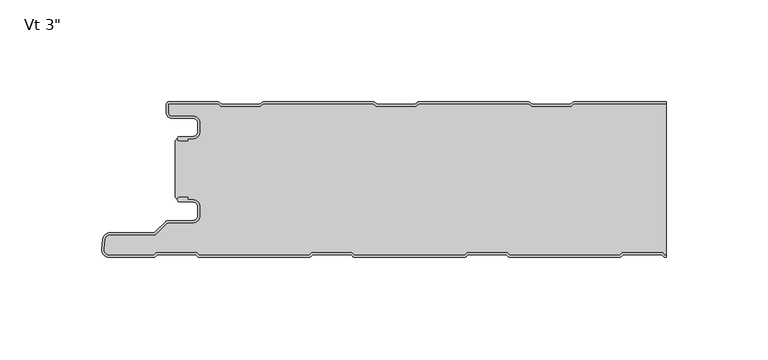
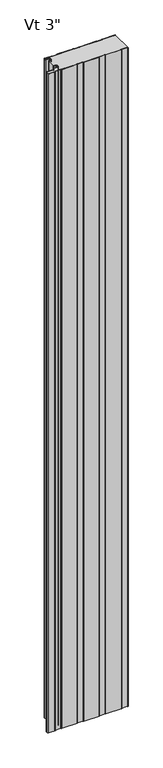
"""IFC4 building model written with IfcOpenShell, lengths in millimetres: plate geometry."""

from ifc_helpers import new_model, si_unit, point, frame, frame_2d, origin, origin_with_axes, place, context, project, spatial, polyline, circle_curve, trimmed, segment, composite_curve, outline, extrude, source, transform, mapped, element, save
from ifc_brep_helpers import plane_surface, cylinder_surface, revolved_surface, advanced_brep


def plate_9828c6b8(model_context):
    return source(origin(), model_context, "Body", "SolidModel", [
        advanced_brep(
        [(-118.368691, -17.0015034, 2400.0), (-119.3686883, -18.0015065, 2400.0), (-118.368691, -19.0014978, 2400.0), (-114.3684874, -19.0014979, 2400.0), (-114.3684874, -18.0015034, 2400.0), (-111.6762776, -18.0015034, 2400.0), (-108.3762819, -14.7015077, 2400.0), (-108.3762819, -10.3015164, 2400.0), (-111.6762774, -7.001521, 2400.0), (-122.0962563, -7.001521, 2400.0), (-123.8662505, -5.2315268, 2400.0), (-123.8662505, -0.9999791, 2400.0), (-99.3659738, -0.9999791, 2400.0), (-97.9803312, -2.2002182, 2400.0), (-78.6051649, -2.2002182, 2400.0), (-77.219532, -0.9999874, 2400.0), (-23.1661166, -0.9999874, 2400.0), (-21.7804836, -2.2002182, 2400.0), (-2.4053173, -2.2002182, 2400.0), (-1.0196844, -0.9999874, 2400.0), (53.033731, -0.9999874, 2400.0), (54.419364, -2.2002182, 2400.0), (73.7945303, -2.2002182, 2400.0), (75.1801632, -0.9999874, 2400.0), (120.3999998, -0.9999874, 2400.0), (120.3999998, 1.26e-05, 2400.0), (75.3293144, 1.26e-05, 2400.0), (74.4126975, -0.3417759, 2400.0), (73.4216499, -1.2002182, 2400.0), (54.7922444, -1.2002182, 2400.0), (53.8011968, -0.3417759, 2400.0), (52.8845799, 1.26e-05, 2400.0), (-0.8705332, 1.26e-05, 2400.0), (-1.7871501, -0.3417759, 2400.0), (-2.7781977, -1.2002182, 2400.0), (-21.4076032, -1.2002182, 2400.0), (-22.3986508, -0.3417759, 2400.0), (-23.3152677, 1.26e-05, 2400.0), (-77.0703808, 1.26e-05, 2400.0), (-77.9869977, -0.3417759, 2400.0), (-78.9780453, -1.2002182, 2400.0), (-97.6074508, -1.2002182, 2400.0), (-98.5984984, -0.3417759, 2400.0), (-99.5152067, 1.26e-05, 2400.0), (-123.4662543, 2.09e-05, 2400.0), (-124.8662505, -1.3999752, 2400.0), (-124.8662505, -5.2315268, 2400.0), (-122.0962563, -8.001521, 2400.0), (-111.6762774, -8.001521, 2400.0), (-109.3762819, -10.3015164, 2400.0), (-109.3762819, -14.7015077, 2400.0), (-111.6762776, -17.0015034, 2400.0), (-118.368691, -17.0015034, 0.0), (-111.6762776, -17.0015034, 0.0), (-109.3762819, -14.7015077, 0.0), (-109.3762819, -10.3015164, 0.0), (-111.6762774, -8.001521, 0.0), (-122.0962563, -8.001521, 0.0), (-124.8662505, -5.2315268, 0.0), (-124.8662505, -1.3999752, 0.0), (-123.4662543, 2.09e-05, 0.0), (-99.5151153, 2.09e-05, 0.0), (-98.5984984, -0.3417759, 0.0), (-97.6074508, -1.2002182, 0.0), (-78.9780453, -1.2002182, 0.0), (-77.9869977, -0.3417759, 0.0), (-77.0703808, 1.26e-05, 0.0), (-23.3152677, 1.26e-05, 0.0), (-22.3986508, -0.3417759, 0.0), (-21.4076032, -1.2002182, 0.0), (-2.7781977, -1.2002182, 0.0), (-1.7871501, -0.3417759, 0.0), (-0.8705332, 1.26e-05, 0.0), (52.8845799, 1.26e-05, 0.0), (53.8011968, -0.3417759, 0.0), (54.7922444, -1.2002182, 0.0), (73.4216499, -1.2002182, 0.0), (74.4126975, -0.3417759, 0.0), (75.3293144, 1.26e-05, 0.0), (120.3999998, 1.26e-05, 0.0), (120.3999998, -0.9999874, 0.0), (75.1801632, -0.9999874, 0.0), (73.7945303, -2.2002182, 0.0), (54.419364, -2.2002182, 0.0), (53.033731, -0.9999874, 0.0), (-1.0196844, -0.9999874, 0.0), (-2.4053173, -2.2002182, 0.0), (-21.7804836, -2.2002182, 0.0), (-23.1661166, -0.9999874, 0.0), (-77.219532, -0.9999874, 0.0), (-78.6051649, -2.2002182, 0.0), (-97.9803312, -2.2002182, 0.0), (-99.3659738, -0.9999791, 0.0), (-123.8662505, -0.9999791, 0.0), (-123.8662505, -5.2315268, 0.0), (-122.0962563, -7.001521, 0.0), (-111.6762774, -7.001521, 0.0), (-108.3762819, -10.3015164, 0.0), (-108.3762819, -14.7015077, 0.0), (-111.6762776, -18.0015034, 0.0), (-114.3684874, -18.0015034, 0.0), (-114.3684874, -19.0014979, 0.0), (-118.368691, -19.0014979, 0.0), (-119.3686882, -18.0015065, 0.0)],
        [
            (0, 1, circle_curve(frame((-118.368691, -18.0015006, 2400.0), z_axis=(0.0, 0.0, 1.0), x_axis=(1.0, 0.0, 0.0)), 0.9999973)),
            (1, 2, circle_curve(frame((-118.368691, -18.0015006, 2400.0), z_axis=(0.0, 0.0, 1.0), x_axis=(1.0, 0.0, 0.0)), 0.9999972)),
            (2, 3),
            (3, 4),
            (4, 5),
            (5, 6, circle_curve(frame((-111.6762776, -14.7015077, 2400.0), z_axis=(0.0, 0.0, 1.0), x_axis=(1.0, 0.0, 0.0)), 3.2999957)),
            (6, 7),
            (7, 8, circle_curve(frame((-111.6762774, -10.3015164, 2400.0), z_axis=(0.0, 0.0, 1.0), x_axis=(1.0, 0.0, 0.0)), 3.2999955)),
            (8, 9),
            (9, 10, circle_curve(frame((-122.0962563, -5.2315268, 2400.0), z_axis=(0.0, 0.0, -1.0), x_axis=(1.0, 0.0, 0.0)), 1.7699942)),
            (10, 11),
            (11, 12),
            (12, 13),
            (13, 14),
            (14, 15),
            (15, 16),
            (16, 17),
            (17, 18),
            (18, 19),
            (19, 20),
            (20, 21),
            (21, 22),
            (22, 23),
            (23, 24),
            (24, 25),
            (25, 26),
            (26, 27, circle_curve(frame((75.3293144, -1.3999846, 2400.0), z_axis=(0.0, 0.0, 1.0), x_axis=(1.0, 0.0, 0.0)), 1.3999972)),
            (27, 28),
            (28, 29),
            (29, 30),
            (30, 31, circle_curve(frame((52.8845799, -1.3999846, 2400.0), z_axis=(0.0, 0.0, 1.0), x_axis=(1.0, 0.0, 0.0)), 1.3999972)),
            (31, 32),
            (32, 33, circle_curve(frame((-0.8705332, -1.3999846, 2400.0), z_axis=(0.0, 0.0, 1.0), x_axis=(1.0, 0.0, 0.0)), 1.3999972)),
            (33, 34),
            (34, 35),
            (35, 36),
            (36, 37, circle_curve(frame((-23.3152677, -1.3999846, 2400.0), z_axis=(0.0, 0.0, 1.0), x_axis=(1.0, 0.0, 0.0)), 1.3999972)),
            (37, 38),
            (38, 39, circle_curve(frame((-77.0703808, -1.3999846, 2400.0), z_axis=(0.0, 0.0, 1.0), x_axis=(1.0, 0.0, 0.0)), 1.3999972)),
            (39, 40),
            (40, 41),
            (41, 42),
            (42, 43, circle_curve(frame((-99.5151153, -1.3999846, 2400.0), z_axis=(0.0, 0.0, 1.0), x_axis=(1.0, 0.0, 0.0)), 1.3999972)),
            (43, 44),
            (44, 45, circle_curve(frame((-123.4662543, -1.3999752, 2400.0), z_axis=(0.0, 0.0, 1.0), x_axis=(1.0, 0.0, 0.0)), 1.3999962)),
            (45, 46),
            (46, 47, circle_curve(frame((-122.0962563, -5.2315268, 2400.0), z_axis=(0.0, 0.0, 1.0), x_axis=(1.0, 0.0, 0.0)), 2.7699942)),
            (47, 48),
            (48, 49, circle_curve(frame((-111.6762774, -10.3015164, 2400.0), z_axis=(0.0, 0.0, -1.0), x_axis=(1.0, 0.0, 0.0)), 2.2999955)),
            (49, 50),
            (50, 51, circle_curve(frame((-111.6762776, -14.7015077, 2400.0), z_axis=(0.0, 0.0, -1.0), x_axis=(1.0, 0.0, 0.0)), 2.2999957)),
            (51, 0),
            (52, 53),
            (53, 54, circle_curve(frame((-111.6762776, -14.7015077, 0.0), z_axis=(0.0, 0.0, 1.0), x_axis=(1.0, 0.0, 0.0)), 2.2999957)),
            (54, 55),
            (55, 56, circle_curve(frame((-111.6762774, -10.3015164, 0.0), z_axis=(0.0, 0.0, 1.0), x_axis=(1.0, 0.0, 0.0)), 2.2999955)),
            (56, 57),
            (57, 58, circle_curve(frame((-122.0962563, -5.2315268, 0.0), z_axis=(0.0, 0.0, -1.0), x_axis=(1.0, 0.0, 0.0)), 2.7699942)),
            (58, 59),
            (59, 60, circle_curve(frame((-123.4662543, -1.3999752, 0.0), z_axis=(0.0, 0.0, -1.0), x_axis=(1.0, 0.0, 0.0)), 1.3999962)),
            (60, 61),
            (61, 62, circle_curve(frame((-99.5151153, -1.3999846, 0.0), z_axis=(0.0, 0.0, -1.0), x_axis=(1.0, 0.0, 0.0)), 1.3999972)),
            (62, 63),
            (63, 64),
            (64, 65),
            (65, 66, circle_curve(frame((-77.0703808, -1.3999846, 0.0), z_axis=(0.0, 0.0, -1.0), x_axis=(1.0, 0.0, 0.0)), 1.3999972)),
            (66, 67),
            (67, 68, circle_curve(frame((-23.3152677, -1.3999846, 0.0), z_axis=(0.0, 0.0, -1.0), x_axis=(1.0, 0.0, 0.0)), 1.3999972)),
            (68, 69),
            (69, 70),
            (70, 71),
            (71, 72, circle_curve(frame((-0.8705332, -1.3999846, 0.0), z_axis=(0.0, 0.0, -1.0), x_axis=(1.0, 0.0, 0.0)), 1.3999972)),
            (72, 73),
            (73, 74, circle_curve(frame((52.8845799, -1.3999846, 0.0), z_axis=(0.0, 0.0, -1.0), x_axis=(1.0, 0.0, 0.0)), 1.3999972)),
            (74, 75),
            (75, 76),
            (76, 77),
            (77, 78, circle_curve(frame((75.3293144, -1.3999846, 0.0), z_axis=(0.0, 0.0, -1.0), x_axis=(1.0, 0.0, 0.0)), 1.3999972)),
            (78, 79),
            (79, 80),
            (80, 81),
            (81, 82),
            (82, 83),
            (83, 84),
            (84, 85),
            (85, 86),
            (86, 87),
            (87, 88),
            (88, 89),
            (89, 90),
            (90, 91),
            (91, 92),
            (92, 93),
            (93, 94),
            (94, 95, circle_curve(frame((-122.0962563, -5.2315268, 0.0), z_axis=(0.0, 0.0, 1.0), x_axis=(1.0, 0.0, 0.0)), 1.7699942)),
            (95, 96),
            (96, 97, circle_curve(frame((-111.6762774, -10.3015164, 0.0), z_axis=(0.0, 0.0, -1.0), x_axis=(1.0, 0.0, 0.0)), 3.2999955)),
            (97, 98),
            (98, 99, circle_curve(frame((-111.6762776, -14.7015077, 0.0), z_axis=(0.0, 0.0, -1.0), x_axis=(1.0, 0.0, 0.0)), 3.2999957)),
            (99, 100),
            (100, 101),
            (101, 102),
            (102, 103, circle_curve(frame((-118.368691, -18.0015006, 0.0), z_axis=(0.0, 0.0, -1.0), x_axis=(1.0, 0.0, 0.0)), 0.9999972)),
            (103, 52, circle_curve(frame((-118.368691, -18.0015006, 0.0), z_axis=(0.0, 0.0, -1.0), x_axis=(1.0, 0.0, 0.0)), 0.9999973)),
            (24, 80),
            (79, 25),
            (51, 53),
            (52, 0),
            (50, 54),
            (49, 55),
            (48, 56),
            (47, 57),
            (46, 58),
            (45, 59),
            (44, 60),
            (43, 61),
            (78, 26),
            (42, 62),
            (41, 63),
            (40, 64),
            (38, 66),
            (65, 39),
            (36, 68),
            (67, 37),
            (77, 27),
            (76, 28),
            (31, 73),
            (72, 32),
            (71, 33),
            (34, 70),
            (69, 35),
            (30, 74),
            (29, 75),
            (2, 102),
            (101, 3),
            (1, 103),
            (23, 81),
            (22, 82),
            (21, 83),
            (20, 84),
            (19, 85),
            (18, 86),
            (17, 87),
            (16, 88),
            (15, 89),
            (14, 90),
            (13, 91),
            (12, 92),
            (11, 93),
            (10, 94),
            (9, 95),
            (8, 96),
            (7, 97),
            (6, 98),
            (5, 99),
            (4, 100),
        ],
        [
            plane_surface(frame((184.4000002, 1.26e-05, 2400.0), z_axis=(0.0, 0.0, 1.0), x_axis=(0.0, 1.0, 0.0))),
            plane_surface(frame((184.4000002, 1.26e-05, 0.0), z_axis=(0.0, 0.0, -1.0), x_axis=(0.0, 1.0, 0.0))),
            plane_surface(frame((120.3999998, -86.1999874, 2400.0), z_axis=(1.0, 0.0, 0.0), x_axis=(0.0, 0.0, -1.0))),
            plane_surface(frame((-118.368691, -17.0015034, 2400.0), z_axis=(0.0, 1.0, 0.0), x_axis=(0.0, 0.0, -1.0))),
            revolved_surface(polyline([(-109.37628190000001, -14.7015077, 0.0), (-109.37628190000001, -14.7015077, 2400.0)]), (-111.6762776, -14.7015077, 2400.0), (0.0, 0.0, -1.0)),
            plane_surface(frame((-109.3762819, -14.7015077, 2400.0), z_axis=(-1.0, 0.0, 0.0), x_axis=(0.0, 0.0, -1.0))),
            revolved_surface(polyline([(-109.37628190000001, -10.3015164, 0.0), (-109.37628190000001, -10.3015164, 2400.0)]), (-111.6762774, -10.3015164, 2400.0), (0.0, 0.0, -1.0)),
            plane_surface(frame((-111.6762774, -8.001521, 2400.0), z_axis=(0.0, -1.0, 0.0), x_axis=(0.0, 0.0, -1.0))),
            cylinder_surface(frame((-122.0962563, -5.2315268, 2400.0), z_axis=(0.0, 0.0, 1.0), x_axis=(1.0, 0.0, 0.0)), 2.7699942),
            plane_surface(frame((-124.8662505, -5.2315268, 2400.0), z_axis=(-1.0, 0.0, 0.0), x_axis=(0.0, 0.0, -1.0))),
            cylinder_surface(frame((-123.4662543, -1.3999752, 2400.0), z_axis=(0.0, 0.0, 1.0), x_axis=(1.0, 0.0, 0.0)), 1.3999962),
            plane_surface(frame((-123.4662543, 2.09e-05, 2400.0), z_axis=(0.0, 1.0, 0.0), x_axis=(0.0, 0.0, -1.0))),
            plane_surface(frame((75.3293144, 1.26e-05, 2400.0), z_axis=(0.0, 1.0, 0.0), x_axis=(0.0, 0.0, -1.0))),
            cylinder_surface(frame((-99.5151153, -1.3999846, 2400.0), z_axis=(0.0, 0.0, 1.0), x_axis=(1.0, 0.0, 0.0)), 1.3999972),
            plane_surface(frame((-98.5984984, -0.3417759, 2400.0), z_axis=(0.6547276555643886, 0.755864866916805, 0.0), x_axis=(0.0, 0.0, -1.0))),
            plane_surface(frame((-88.2927481, -1.2002182, 2400.0), z_axis=(0.0, 1.0, 0.0), x_axis=(0.0, 0.0, -1.0))),
            cylinder_surface(frame((-77.0703808, -1.3999846, 2400.0), z_axis=(0.0, 0.0, 1.0), x_axis=(1.0, 0.0, 0.0)), 1.3999972),
            plane_surface(frame((-78.9780453, -1.2002182, 2400.0), z_axis=(-0.6547276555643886, 0.755864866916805, 0.0), x_axis=(0.0, 0.0, -1.0))),
            cylinder_surface(frame((-23.3152677, -1.3999846, 2400.0), z_axis=(0.0, 0.0, 1.0), x_axis=(1.0, 0.0, 0.0)), 1.3999972),
            cylinder_surface(frame((75.3293144, -1.3999846, 2400.0), z_axis=(0.0, 0.0, 1.0), x_axis=(1.0, 0.0, 0.0)), 1.3999972),
            plane_surface(frame((73.4216499, -1.2002182, 2400.0), z_axis=(-0.6547276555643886, 0.755864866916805, 0.0), x_axis=(0.0, 0.0, -1.0))),
            plane_surface(frame((-0.8705332, 1.26e-05, 2400.0), z_axis=(0.0, 1.0, 0.0), x_axis=(0.0, 0.0, -1.0))),
            cylinder_surface(frame((-0.8705332, -1.3999846, 2400.0), z_axis=(0.0, 0.0, 1.0), x_axis=(1.0, 0.0, 0.0)), 1.3999972),
            plane_surface(frame((-12.0929005, -1.2002182, 2400.0), z_axis=(0.0, 1.0, 0.0), x_axis=(0.0, 0.0, -1.0))),
            plane_surface(frame((-22.3986508, -0.3417759, 2400.0), z_axis=(0.6547276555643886, 0.755864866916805, 0.0), x_axis=(0.0, 0.0, -1.0))),
            plane_surface(frame((-2.7781977, -1.2002182, 2400.0), z_axis=(-0.6547276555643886, 0.755864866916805, 0.0), x_axis=(0.0, 0.0, -1.0))),
            plane_surface(frame((-77.0703808, 1.26e-05, 2400.0), z_axis=(0.0, 1.0, 0.0), x_axis=(0.0, 0.0, -1.0))),
            cylinder_surface(frame((52.8845799, -1.3999846, 2400.0), z_axis=(0.0, 0.0, 1.0), x_axis=(1.0, 0.0, 0.0)), 1.3999972),
            plane_surface(frame((53.8011968, -0.3417759, 2400.0), z_axis=(0.6547276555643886, 0.755864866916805, 0.0), x_axis=(0.0, 0.0, -1.0))),
            plane_surface(frame((64.1069471, -1.2002182, 2400.0), z_axis=(0.0, 1.0, 0.0), x_axis=(0.0, 0.0, -1.0))),
            plane_surface(frame((-114.3684874, -19.0014979, 2400.0), z_axis=(0.0, -1.0, 0.0), x_axis=(0.0, 0.0, -1.0))),
            cylinder_surface(frame((-118.368691, -18.0015006, 2400.0), z_axis=(0.0, 0.0, 1.0), x_axis=(1.0, 0.0, 0.0)), 0.9999972),
            cylinder_surface(frame((-118.368691, -18.0015006, 2400.0), z_axis=(0.0, 0.0, 1.0), x_axis=(1.0, 0.0, 0.0)), 0.9999973),
            plane_surface(frame((129.2335786, -0.9999874, 2400.0), z_axis=(0.0, -1.0, 0.0), x_axis=(0.0, 0.0, -1.0))),
            plane_surface(frame((75.1801632, -0.9999874, 2400.0), z_axis=(0.6547276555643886, -0.755864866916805, 0.0), x_axis=(0.0, 0.0, -1.0))),
            plane_surface(frame((73.7945303, -2.2002182, 2400.0), z_axis=(0.0, -1.0, 0.0), x_axis=(0.0, 0.0, -1.0))),
            plane_surface(frame((54.419364, -2.2002182, 2400.0), z_axis=(-0.6547276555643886, -0.755864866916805, 0.0), x_axis=(0.0, 0.0, -1.0))),
            plane_surface(frame((53.033731, -0.9999874, 2400.0), z_axis=(0.0, -1.0, 0.0), x_axis=(0.0, 0.0, -1.0))),
            plane_surface(frame((-1.0196844, -0.9999874, 2400.0), z_axis=(0.6547276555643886, -0.755864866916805, 0.0), x_axis=(0.0, 0.0, -1.0))),
            plane_surface(frame((-2.4053173, -2.2002182, 2400.0), z_axis=(0.0, -1.0, 0.0), x_axis=(0.0, 0.0, -1.0))),
            plane_surface(frame((-21.7804836, -2.2002182, 2400.0), z_axis=(-0.6547276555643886, -0.755864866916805, 0.0), x_axis=(0.0, 0.0, -1.0))),
            plane_surface(frame((-23.1661166, -0.9999874, 2400.0), z_axis=(0.0, -1.0, 0.0), x_axis=(0.0, 0.0, -1.0))),
            plane_surface(frame((-77.219532, -0.9999874, 2400.0), z_axis=(0.6547276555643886, -0.755864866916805, 0.0), x_axis=(0.0, 0.0, -1.0))),
            plane_surface(frame((-78.6051649, -2.2002182, 2400.0), z_axis=(0.0, -1.0, 0.0), x_axis=(0.0, 0.0, -1.0))),
            plane_surface(frame((-97.9803312, -2.2002182, 2400.0), z_axis=(-0.6547276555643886, -0.755864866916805, 0.0), x_axis=(0.0, 0.0, -1.0))),
            plane_surface(frame((-99.3659738, -0.9999791, 2400.0), z_axis=(0.0, -1.0, 0.0), x_axis=(0.0, 0.0, -1.0))),
            plane_surface(frame((-123.8662505, -0.9999791, 2400.0), z_axis=(1.0, 0.0, 0.0), x_axis=(0.0, 0.0, -1.0))),
            revolved_surface(polyline([(-120.3262621, -5.2315268, 0.0), (-120.3262621, -5.2315268, 2400.0)]), (-122.0962563, -5.2315268, 2400.0), (0.0, 0.0, -1.0)),
            plane_surface(frame((-122.0962563, -7.001521, 2400.0), z_axis=(0.0, 1.0, 0.0), x_axis=(0.0, 0.0, -1.0))),
            cylinder_surface(frame((-111.6762774, -10.3015164, 2400.0), z_axis=(0.0, 0.0, 1.0), x_axis=(1.0, 0.0, 0.0)), 3.2999955),
            plane_surface(frame((-108.3762819, -10.3015164, 2400.0), z_axis=(1.0, 0.0, 0.0), x_axis=(0.0, 0.0, -1.0))),
            cylinder_surface(frame((-111.6762776, -14.7015077, 2400.0), z_axis=(0.0, 0.0, 1.0), x_axis=(1.0, 0.0, 0.0)), 3.2999957),
            plane_surface(frame((-111.6762776, -18.0015034, 2400.0), z_axis=(0.0, -1.0, 0.0), x_axis=(0.0, 0.0, -1.0))),
            plane_surface(frame((-114.3684874, -18.0015034, 2400.0), z_axis=(1.0, 0.0, 0.0), x_axis=(0.0, 0.0, -1.0))),
        ],
        [
            (0, [[1, 2, 3, 4, 5, 6, 7, 8, 9, 10, 11, 12, 13, 14, 15, 16, 17, 18, 19, 20, 21, 22, 23, 24, 25, 26, 27, 28, 29, 30, 31, 32, 33, 34, 35, 36, 37, 38, 39, 40, 41, 42, 43, 44, 45, 46, 47, 48, 49, 50, 51, 52]]),
            (1, [[53, 54, 55, 56, 57, 58, 59, 60, 61, 62, 63, 64, 65, 66, 67, 68, 69, 70, 71, 72, 73, 74, 75, 76, 77, 78, 79, 80, 81, 82, 83, 84, 85, 86, 87, 88, 89, 90, 91, 92, 93, 94, 95, 96, 97, 98, 99, 100, 101, 102, 103, 104]]),
            (2, [[105, -80, 106, -25]]),
            (3, [[107, -53, 108, -52]]),
            (4, [[109, -54, -107, -51]]),
            (5, [[110, -55, -109, -50]]),
            (6, [[111, -56, -110, -49]]),
            (7, [[112, -57, -111, -48]]),
            (8, [[113, -58, -112, -47]]),
            (9, [[114, -59, -113, -46]]),
            (10, [[115, -60, -114, -45]]),
            (11, [[116, -61, -115, -44]]),
            (12, [[-26, -106, -79, 117]]),
            (13, [[118, -62, -116, -43]]),
            (14, [[119, -63, -118, -42]]),
            (15, [[120, -64, -119, -41]]),
            (16, [[121, -66, 122, -39]]),
            (17, [[-122, -65, -120, -40]]),
            (18, [[123, -68, 124, -37]]),
            (19, [[-117, -78, 125, -27]]),
            (20, [[-125, -77, 126, -28]]),
            (21, [[127, -73, 128, -32]]),
            (22, [[-128, -72, 129, -33]]),
            (23, [[130, -70, 131, -35]]),
            (24, [[-131, -69, -123, -36]]),
            (25, [[-129, -71, -130, -34]]),
            (26, [[-124, -67, -121, -38]]),
            (27, [[132, -74, -127, -31]]),
            (28, [[133, -75, -132, -30]]),
            (29, [[-126, -76, -133, -29]]),
            (30, [[134, -102, 135, -3]]),
            (31, [[136, -103, -134, -2]]),
            (32, [[-108, -104, -136, -1]]),
            (33, [[-81, -105, -24, 137]]),
            (34, [[138, -82, -137, -23]]),
            (35, [[139, -83, -138, -22]]),
            (36, [[140, -84, -139, -21]]),
            (37, [[141, -85, -140, -20]]),
            (38, [[142, -86, -141, -19]]),
            (39, [[143, -87, -142, -18]]),
            (40, [[144, -88, -143, -17]]),
            (41, [[145, -89, -144, -16]]),
            (42, [[146, -90, -145, -15]]),
            (43, [[147, -91, -146, -14]]),
            (44, [[148, -92, -147, -13]]),
            (45, [[149, -93, -148, -12]]),
            (46, [[150, -94, -149, -11]]),
            (47, [[151, -95, -150, -10]]),
            (48, [[152, -96, -151, -9]]),
            (49, [[153, -97, -152, -8]]),
            (50, [[154, -98, -153, -7]]),
            (51, [[155, -99, -154, -6]]),
            (52, [[156, -100, -155, -5]]),
            (53, [[-135, -101, -156, -4]]),
        ],
    ),
        extrude(outline(composite_curve([segment(polyline([(-131.0415932, -76.1997253), (-152.8521175, -76.1997253)]), True, "CONTINUOUS"), segment(trimmed(circle_curve(frame_2d((-152.8521175, -72.629486)), 3.5702393), [point((-152.8521175, -76.1997253))], [point((-156.4087619, -72.3182156))], False, "CARTESIAN"), True, "CONTINUOUS"), segment(polyline([(-156.4087619, -72.3182156), (-155.9690674, -67.294169)]), True, "CONTINUOUS"), segment(trimmed(circle_curve(frame_2d((-152.3198391, -67.9049701)), 3.6999926), [point((-155.9690674, -67.294169))], [point((-152.3198391, -64.2049775))], False, "CARTESIAN"), True, "CONTINUOUS"), segment(polyline([(-152.3198391, -64.2049775), (-131.1773995, -64.2049775)]), True, "CONTINUOUS"), segment(trimmed(circle_curve(frame_2d((-131.1773995, -62.9049801)), 1.2999974), [point((-131.1773995, -64.2049775))], [point((-130.2581626, -63.8242171))], True, "CARTESIAN"), True, "CONTINUOUS"), segment(polyline([(-130.2581626, -63.8242171), (-125.4297451, -58.9957996)]), True, "CONTINUOUS"), segment(trimmed(circle_curve(frame_2d((-123.5205606, -60.9049841)), 2.6999946), [point((-125.4297451, -58.9957996))], [point((-123.5205606, -58.2049895))], False, "CARTESIAN"), True, "CONTINUOUS"), segment(polyline([(-123.5205606, -58.2049895), (-111.7096715, -58.2049895)]), True, "CONTINUOUS"), segment(trimmed(circle_curve(frame_2d((-111.7096715, -55.8549942)), 2.3499953), [point((-111.7096715, -58.2049895))], [point((-109.3596762, -55.8549942))], True, "CARTESIAN"), True, "CONTINUOUS"), segment(polyline([(-109.3596762, -55.8549942), (-109.3596762, -51.455003)]), True, "CONTINUOUS"), segment(trimmed(circle_curve(frame_2d((-111.7096715, -51.455003)), 2.3499953), [point((-109.3596762, -51.455003))], [point((-111.7096715, -49.1050077))], True, "CARTESIAN"), True, "CONTINUOUS"), segment(polyline([(-111.7096715, -49.1050077), (-118.2289777, -49.1050077)]), True, "CONTINUOUS"), segment(trimmed(circle_curve(frame_2d((-118.1686906, -47.9065254)), 1.1999976), [point((-118.2289777, -49.1050077))], [point((-119.3683, -47.8760035))], False, "CARTESIAN"), True, "CONTINUOUS"), segment(trimmed(circle_curve(frame_2d((-118.1686906, -47.9065254)), 1.1999976), [point((-119.3683, -47.8760035))], [point((-118.167176, -46.7065288))], False, "CARTESIAN"), True, "CONTINUOUS"), segment(polyline([(-118.167176, -46.7065288), (-114.4087826, -46.7065288), (-114.4087826, -48.1050077), (-111.7096715, -48.1050077)]), True, "CONTINUOUS"), segment(trimmed(circle_curve(frame_2d((-111.7096715, -51.455003)), 3.3499953), [point((-111.7096715, -48.1050077))], [point((-108.3596762, -51.455003))], False, "CARTESIAN"), True, "CONTINUOUS"), segment(polyline([(-108.3596762, -51.455003), (-108.3596762, -55.8549942)]), True, "CONTINUOUS"), segment(trimmed(circle_curve(frame_2d((-111.7096715, -55.8549942)), 3.3499953), [point((-108.3596762, -55.8549942))], [point((-111.7096715, -59.2049895))], False, "CARTESIAN"), True, "CONTINUOUS"), segment(polyline([(-111.7096715, -59.2049895), (-123.5205606, -59.2049895)]), True, "CONTINUOUS"), segment(trimmed(circle_curve(frame_2d((-123.5205606, -60.9049841)), 1.6999946), [point((-123.5205606, -59.2049895))], [point((-124.7226383, -59.7029064))], True, "CARTESIAN"), True, "CONTINUOUS"), segment(polyline([(-124.7226383, -59.7029064), (-130.2247094, -65.2049775), (-152.3198391, -65.2049775)]), True, "CONTINUOUS"), segment(trimmed(circle_curve(frame_2d((-152.3198391, -67.9049701)), 2.6999926), [point((-152.3198391, -65.2049775))], [point((-154.9765707, -67.4235795))], True, "CARTESIAN"), True, "CONTINUOUS"), segment(polyline([(-154.9765707, -67.4235795), (-155.4125697, -72.4054003)]), True, "CONTINUOUS"), segment(trimmed(circle_curve(frame_2d((-152.8521175, -72.629486)), 2.5702393), [point((-155.4125697, -72.4054003))], [point((-152.8521175, -75.1997253))], True, "CARTESIAN"), True, "CONTINUOUS"), segment(polyline([(-152.8521175, -75.1997253), (-130.879096, -75.1997253), (-129.6791275, -73.9997567), (-109.959715, -73.9997567), (-108.7594843, -75.1999874), (-54.6793525, -75.1999874), (-53.4791218, -73.9997567), (-33.7597093, -73.9997567), (-32.5594786, -75.1999874), (21.5206532, -75.1999874), (22.7208839, -73.9997567), (42.4402964, -73.9997567), (43.6405271, -75.1999874), (97.7206589, -75.1999874), (98.9208896, -73.9997567), (118.6403021, -73.9997567), (119.8405328, -75.1999874), (120.3999998, -75.1999874), (120.3999998, -76.1999874), (120.010284, -76.1999874)]), True, "CONTINUOUS"), segment(trimmed(circle_curve(frame_2d((120.0026306, -74.8000112)), 1.3999972), [point((120.010284, -76.1999874))], [point((118.9585798, -75.7327223))], False, "CARTESIAN"), True, "CONTINUOUS"), segment(polyline([(118.9585798, -75.7327223), (118.2256142, -74.9997567), (99.334945, -74.9997567), (98.6020004, -75.7327014)]), True, "CONTINUOUS"), segment(trimmed(circle_curve(frame_2d((97.5579496, -74.7999902)), 1.3999972), [point((98.6020004, -75.7327014))], [point((97.5579496, -76.1999874))], False, "CARTESIAN"), True, "CONTINUOUS"), segment(polyline([(97.5579496, -76.1999874), (43.8104364, -76.1999874)]), True, "CONTINUOUS"), segment(trimmed(circle_curve(frame_2d((43.802783, -74.8000112)), 1.3999972), [point((43.8104364, -76.1999874))], [point((42.7587322, -75.7327223))], False, "CARTESIAN"), True, "CONTINUOUS"), segment(polyline([(42.7587322, -75.7327223), (42.0257666, -74.9997567), (23.1350974, -74.9997567), (22.4021528, -75.7327014)]), True, "CONTINUOUS"), segment(trimmed(circle_curve(frame_2d((21.358102, -74.7999902)), 1.3999972), [point((22.4021528, -75.7327014))], [point((21.358102, -76.1999874))], False, "CARTESIAN"), True, "CONTINUOUS"), segment(polyline([(21.358102, -76.1999874), (-32.3894112, -76.1999874)]), True, "CONTINUOUS"), segment(trimmed(circle_curve(frame_2d((-32.3970646, -74.8000112)), 1.3999972), [point((-32.3894112, -76.1999874))], [point((-33.4411154, -75.7327223))], False, "CARTESIAN"), True, "CONTINUOUS"), segment(polyline([(-33.4411154, -75.7327223), (-34.174081, -74.9997567), (-53.0647502, -74.9997567), (-53.7976948, -75.7327014)]), True, "CONTINUOUS"), segment(trimmed(circle_curve(frame_2d((-54.8417456, -74.7999902)), 1.3999972), [point((-53.7976948, -75.7327014))], [point((-54.8417456, -76.1999874))], False, "CARTESIAN"), True, "CONTINUOUS"), segment(polyline([(-54.8417456, -76.1999874), (-108.5892588, -76.1999874)]), True, "CONTINUOUS"), segment(trimmed(circle_curve(frame_2d((-108.5969122, -74.8000112)), 1.3999972), [point((-108.5892588, -76.1999874))], [point((-109.640963, -75.7327223))], False, "CARTESIAN"), True, "CONTINUOUS"), segment(polyline([(-109.640963, -75.7327223), (-110.3739286, -74.9997567), (-129.2649139, -74.9997567), (-129.9976402, -75.732483)]), True, "CONTINUOUS"), segment(trimmed(circle_curve(frame_2d((-131.0415932, -74.7998592)), 1.3998661), [point((-129.9976402, -75.732483))], [point((-131.0415932, -76.1997253))], False, "CARTESIAN"), True, "CONTINUOUS")], self_intersect=False)), origin_with_axes(), (0.0, 0.0, 1.0), 2400.0),
        extrude(outline(composite_curve([segment(polyline([(-119.3683, -47.8760035), (-120.3999998, -46.8443036), (-120.3999998, -19.0328183), (-119.3686882, -18.0015066)]), True, "CONTINUOUS"), segment(trimmed(circle_curve(frame_2d((-118.368691, -18.0015007)), 0.9999972), [point((-119.3686882, -18.0015066))], [point((-118.368691, -19.0014979))], True, "CARTESIAN"), True, "CONTINUOUS"), segment(polyline([(-118.368691, -19.0014979), (-114.3684873, -19.0014979), (-114.3684873, -18.0015034), (-111.6762775, -18.0015034)]), True, "CONTINUOUS"), segment(trimmed(circle_curve(frame_2d((-111.6762775, -14.7015077)), 3.2999957), [point((-111.6762775, -18.0015034))], [point((-108.3762818, -14.7015077))], True, "CARTESIAN"), True, "CONTINUOUS"), segment(polyline([(-108.3762818, -14.7015077), (-108.3762818, -10.3015164)]), True, "CONTINUOUS"), segment(trimmed(circle_curve(frame_2d((-111.6762777, -10.3015164)), 3.2999959), [point((-108.3762818, -10.3015164))], [point((-111.6762777, -7.0015206))], True, "CARTESIAN"), True, "CONTINUOUS"), segment(polyline([(-111.6762777, -7.0015206), (-122.0962562, -7.0015206)]), True, "CONTINUOUS"), segment(trimmed(circle_curve(frame_2d((-122.0962562, -5.2315264)), 1.7699942), [point((-122.0962562, -7.0015206))], [point((-123.8662504, -5.2315264))], False, "CARTESIAN"), True, "CONTINUOUS"), segment(polyline([(-123.8662504, -5.2315264), (-123.8662504, -0.9999791), (-99.3659738, -0.9999791), (-97.9803312, -2.2002182), (-78.6051649, -2.2002182), (-77.2195319, -0.9999874), (-23.1661165, -0.9999874), (-21.7804836, -2.2002182), (-2.4053173, -2.2002182), (-1.0196843, -0.9999874), (53.0337311, -0.9999874), (54.419364, -2.2002182), (73.7945303, -2.2002182), (75.1801633, -0.9999874), (120.3999998, -0.9999874), (120.3999998, -75.1999874), (119.8405328, -75.1999874), (118.6403021, -73.9997567), (98.9208896, -73.9997567), (97.7206589, -75.1999874), (43.6405271, -75.1999874), (42.4402964, -73.9997567), (22.7208839, -73.9997567), (21.5206532, -75.1999874), (-32.5594786, -75.1999874), (-33.7597093, -73.9997567), (-53.4791218, -73.9997567), (-54.6793525, -75.1999874), (-108.7594843, -75.1999874), (-109.959715, -73.9997567), (-129.6791275, -73.9997567), (-130.879096, -75.1997253), (-152.8521175, -75.1997253)]), True, "CONTINUOUS"), segment(trimmed(circle_curve(frame_2d((-152.8521175, -72.629486)), 2.5702393), [point((-152.8521175, -75.1997253))], [point((-155.4125697, -72.4054003))], False, "CARTESIAN"), True, "CONTINUOUS"), segment(polyline([(-155.4125697, -72.4054003), (-154.9765707, -67.4235795)]), True, "CONTINUOUS"), segment(trimmed(circle_curve(frame_2d((-152.3198391, -67.9049701)), 2.6999926), [point((-154.9765707, -67.4235795))], [point((-152.3198391, -65.2049775))], False, "CARTESIAN"), True, "CONTINUOUS"), segment(polyline([(-152.3198391, -65.2049775), (-130.2247094, -65.2049775), (-124.7226383, -59.7029064)]), True, "CONTINUOUS"), segment(trimmed(circle_curve(frame_2d((-123.5205606, -60.9049841)), 1.6999946), [point((-124.7226383, -59.7029064))], [point((-123.5205606, -59.2049895))], False, "CARTESIAN"), True, "CONTINUOUS"), segment(polyline([(-123.5205606, -59.2049895), (-111.7096715, -59.2049895)]), True, "CONTINUOUS"), segment(trimmed(circle_curve(frame_2d((-111.7096715, -55.8549942)), 3.3499953), [point((-111.7096715, -59.2049895))], [point((-108.3596762, -55.8549942))], True, "CARTESIAN"), True, "CONTINUOUS"), segment(polyline([(-108.3596762, -55.8549942), (-108.3596762, -51.455003)]), True, "CONTINUOUS"), segment(trimmed(circle_curve(frame_2d((-111.7096715, -51.455003)), 3.3499953), [point((-108.3596762, -51.455003))], [point((-111.7096715, -48.1050077))], True, "CARTESIAN"), True, "CONTINUOUS"), segment(polyline([(-111.7096715, -48.1050077), (-114.4087826, -48.1050077), (-114.4087826, -46.7065288), (-118.167176, -46.7065288)]), True, "CONTINUOUS"), segment(trimmed(circle_curve(frame_2d((-118.1686906, -47.9065254)), 1.1999976), [point((-118.167176, -46.7065288))], [point((-119.3683, -47.8760035))], True, "CARTESIAN"), True, "CONTINUOUS")], self_intersect=False)), origin_with_axes(), (0.0, 0.0, 1.0), 2400.0),
    ])


if __name__ == "__main__":
    model = new_model("IFC4")
    model_context = context("Model", 3, world=origin())
    ifc_project = project(units=[si_unit("LENGTHUNIT", "METRE", prefix="MILLI")], contexts=[model_context])
    site = spatial("IfcSite", under=ifc_project)
    building = spatial("IfcBuilding", under=site)
    placement = place(None, origin())
    plate_shape = plate_9828c6b8(model_context)
    element("IfcPlate", 1, ObjectType="KIP-24-Karrier-KP-R19-CP-Vt-SL3-8in_SL : Vt 3\"", at=placement, inside=building, context=model_context, shape_type="MappedRepresentation", body=[
        mapped(plate_shape, transform((0.0, 0.0, 0.0), x_axis=(1.0, 0.0, 0.0), y_axis=(0.0, 1.0, 0.0), z_axis=(0.0, 0.0, 1.0))),
    ])
    save(model, "model.ifc")
